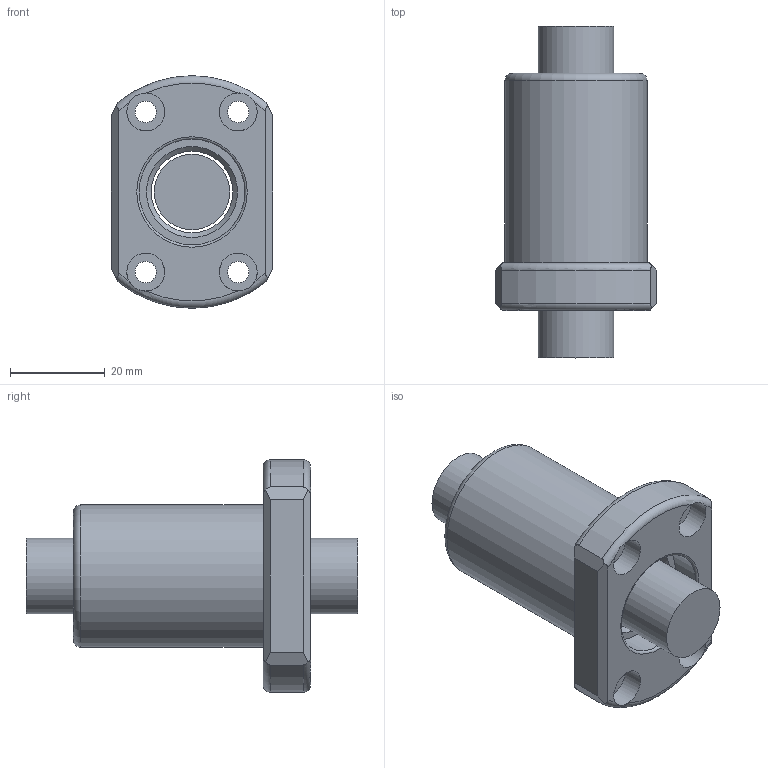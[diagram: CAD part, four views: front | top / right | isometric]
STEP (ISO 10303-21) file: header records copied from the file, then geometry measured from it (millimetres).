
FILE_DESCRIPTION(/* description */ (''),/* implementation_level */ '2;1');
FILE_NAME(/* name */ '1605T4D.prt.step',/* time_stamp */ '2008-12-05T09:33:06+08:00',/* author */ (''),/* organization */ (''),/* preprocessor_version */ 'ST-DEVELOPER v11',/* originating_system */ 'SIEMENS UGS NX 6.0',/* authorisation */ '');
FILE_SCHEMA (('AUTOMOTIVE_DESIGN { 1 0 10303 214 1 1 1 1 }'));
Length unit declared in the file: millimetre
Products named in the file (1): 1605T4D
Bounding box: 34 x 70 x 49 mm (x, y, z)
Volume: 42167.4 mm3; surface area: 14867.1 mm2
Topology: 2 solids, 2 shells, 45 faces, 116 edges, 78 vertices
Faces by surface type: plane 21, cylinder 15, torus 7, cone 2
Full cylindrical faces by diameter (mm): 4.5 x4, 8 x4, 15.95 x1, 17.2 x1, 22.3 x2, 30 x1
Entity records: 1474 total; most frequent: CARTESIAN_POINT 464, DIRECTION 202, ORIENTED_EDGE 174, AXIS2_PLACEMENT_3D 89, EDGE_CURVE 87, EDGE_LOOP 76, VERTEX_POINT 67, FACE_BOUND 58
